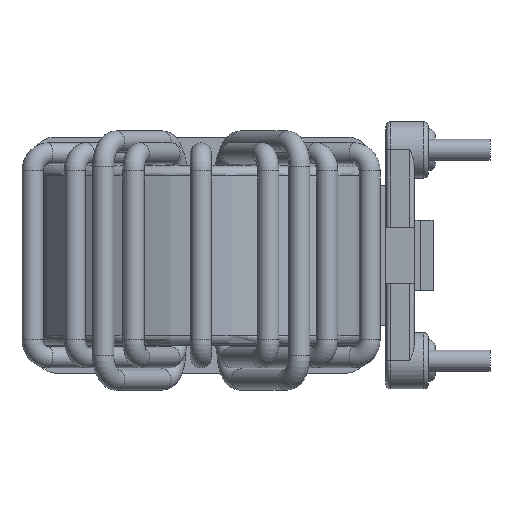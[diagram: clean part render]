
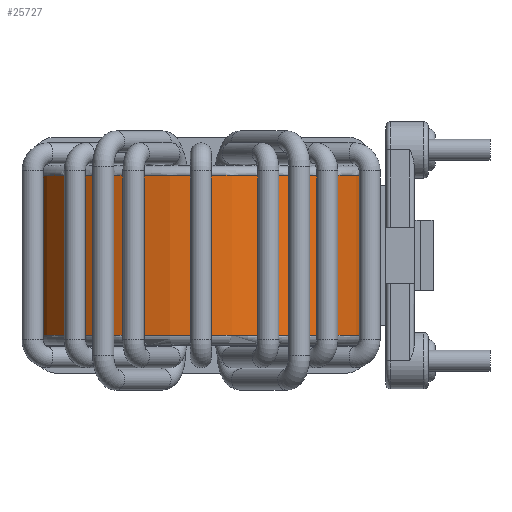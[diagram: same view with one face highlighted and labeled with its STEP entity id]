
A CAD part, left-side view. The second image highlights one B-rep face of the part: STEP entity #25727.
In plain terms, the highlighted cylindrical face has radius 12.7 mm (diameter 25.4 mm), a full revolution.
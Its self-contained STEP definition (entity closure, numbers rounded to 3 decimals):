
#504=FACE_BOUND('',#7459,.T.);
#505=FACE_BOUND('',#7460,.T.);
#2003=LINE('',#38059,#3927);
#2011=LINE('',#38078,#3935);
#2019=LINE('',#38097,#3943);
#2025=LINE('',#38112,#3949);
#2026=LINE('',#38127,#3950);
#3927=VECTOR('',#30564,10.);
#3935=VECTOR('',#30580,10.);
#3943=VECTOR('',#30596,10.);
#3949=VECTOR('',#30610,10.);
#3950=VECTOR('',#30629,12.7);
#5735=CYLINDRICAL_SURFACE('',#27700,12.7);
#6100=FACE_OUTER_BOUND('',#7458,.T.);
#7458=EDGE_LOOP('',(#17679,#17680,#17681,#17682,#17683));
#7459=EDGE_LOOP('',(#17684,#17685,#17686,#17687));
#7460=EDGE_LOOP('',(#17688,#17689,#17690,#17691));
#9218=CIRCLE('',#27693,12.7);
#9224=CIRCLE('',#27699,12.7);
#9225=CIRCLE('',#27701,12.7);
#9226=CIRCLE('',#27702,12.7);
#9227=CIRCLE('',#27703,12.7);
#9228=CIRCLE('',#27704,12.7);
#9229=CIRCLE('',#27705,12.7);
#10149=VERTEX_POINT('',#38052);
#10152=VERTEX_POINT('',#38057);
#10156=VERTEX_POINT('',#38071);
#10159=VERTEX_POINT('',#38076);
#10163=VERTEX_POINT('',#38090);
#10166=VERTEX_POINT('',#38095);
#10170=VERTEX_POINT('',#38108);
#10171=VERTEX_POINT('',#38110);
#10172=VERTEX_POINT('',#38114);
#10173=VERTEX_POINT('',#38115);
#10176=VERTEX_POINT('',#38126);
#12962=EDGE_CURVE('',#10152,#10149,#2003,.T.);
#12972=EDGE_CURVE('',#10159,#10156,#2011,.T.);
#12982=EDGE_CURVE('',#10166,#10163,#2019,.T.);
#12990=EDGE_CURVE('',#10171,#10170,#2025,.T.);
#12991=EDGE_CURVE('',#10172,#10173,#9218,.T.);
#12997=EDGE_CURVE('',#10173,#10172,#9224,.T.);
#12998=EDGE_CURVE('',#10172,#10176,#2026,.T.);
#12999=EDGE_CURVE('',#10176,#10176,#9225,.T.);
#13000=EDGE_CURVE('',#10152,#10163,#9226,.T.);
#13001=EDGE_CURVE('',#10166,#10149,#9227,.T.);
#13002=EDGE_CURVE('',#10159,#10170,#9228,.T.);
#13003=EDGE_CURVE('',#10171,#10156,#9229,.T.);
#17679=ORIENTED_EDGE('',*,*,#12991,.F.);
#17680=ORIENTED_EDGE('',*,*,#12998,.T.);
#17681=ORIENTED_EDGE('',*,*,#12999,.F.);
#17682=ORIENTED_EDGE('',*,*,#12998,.F.);
#17683=ORIENTED_EDGE('',*,*,#12997,.F.);
#17684=ORIENTED_EDGE('',*,*,#13000,.T.);
#17685=ORIENTED_EDGE('',*,*,#12982,.F.);
#17686=ORIENTED_EDGE('',*,*,#13001,.T.);
#17687=ORIENTED_EDGE('',*,*,#12962,.F.);
#17688=ORIENTED_EDGE('',*,*,#13002,.T.);
#17689=ORIENTED_EDGE('',*,*,#12990,.F.);
#17690=ORIENTED_EDGE('',*,*,#13003,.T.);
#17691=ORIENTED_EDGE('',*,*,#12972,.F.);
#25727=ADVANCED_FACE('',(#6100,#504,#505),#5735,.T.);
#27693=AXIS2_PLACEMENT_3D('',#38116,#30613,#30614);
#27699=AXIS2_PLACEMENT_3D('',#38124,#30625,#30626);
#27700=AXIS2_PLACEMENT_3D('',#38125,#30627,#30628);
#27701=AXIS2_PLACEMENT_3D('',#38128,#30630,#30631);
#27702=AXIS2_PLACEMENT_3D('',#38129,#30632,#30633);
#27703=AXIS2_PLACEMENT_3D('',#38130,#30634,#30635);
#27704=AXIS2_PLACEMENT_3D('',#38131,#30636,#30637);
#27705=AXIS2_PLACEMENT_3D('',#38132,#30638,#30639);
#30564=DIRECTION('',(0.,0.,-1.));
#30580=DIRECTION('',(0.,0.,1.));
#30596=DIRECTION('',(0.,0.,1.));
#30610=DIRECTION('',(0.,0.,-1.));
#30613=DIRECTION('center_axis',(0.,0.,
1.));
#30614=DIRECTION('ref_axis',(1.,0.,0.));
#30625=DIRECTION('center_axis',(0.,0.,
1.));
#30626=DIRECTION('ref_axis',(1.,0.,0.));
#30627=DIRECTION('center_axis',(0.,0.,
1.));
#30628=DIRECTION('ref_axis',(1.,0.,0.));
#30629=DIRECTION('',(0.,0.,-1.));
#30630=DIRECTION('center_axis',(0.,0.,
-1.));
#30631=DIRECTION('ref_axis',(1.,0.,0.));
#30632=DIRECTION('center_axis',(0.,0.,
1.));
#30633=DIRECTION('ref_axis',(1.,0.,0.));
#30634=DIRECTION('center_axis',(0.,0.,
-1.));
#30635=DIRECTION('ref_axis',(1.,0.,0.));
#30636=DIRECTION('center_axis',(0.,0.,
-1.));
#30637=DIRECTION('ref_axis',(1.,0.,0.));
#30638=DIRECTION('center_axis',(0.,0.,
1.));
#30639=DIRECTION('ref_axis',(1.,0.,0.));
#38052=CARTESIAN_POINT('',(2.886,2.782,-5.));
#38057=CARTESIAN_POINT('',(2.886,2.782,5.));
#38059=CARTESIAN_POINT('',(2.886,2.782,-5.2));
#38071=CARTESIAN_POINT('',(-2.886,2.782,5.));
#38076=CARTESIAN_POINT('',(-2.886,2.782,-5.));
#38078=CARTESIAN_POINT('',(-2.886,2.782,-5.2));
#38090=CARTESIAN_POINT('',(4.811,3.396,5.));
#38095=CARTESIAN_POINT('',(4.811,3.396,-5.));
#38097=CARTESIAN_POINT('',(4.811,3.396,-5.2));
#38108=CARTESIAN_POINT('',(-4.811,3.396,-5.));
#38110=CARTESIAN_POINT('',(-4.811,3.396,5.));
#38112=CARTESIAN_POINT('',(-4.811,3.396,-5.2));
#38114=CARTESIAN_POINT('',(-12.7,15.15,5.7));
#38115=CARTESIAN_POINT('',(12.7,15.15,5.7));
#38116=CARTESIAN_POINT('Origin',(0.,15.15,5.7));
#38124=CARTESIAN_POINT('Origin',(0.,15.15,5.7));
#38125=CARTESIAN_POINT('Origin',(0.,15.15,-5.2));
#38126=CARTESIAN_POINT('',(-12.7,15.15,-5.7));
#38127=CARTESIAN_POINT('',(-12.7,15.15,-5.2));
#38128=CARTESIAN_POINT('Origin',(0.,15.15,-5.7));
#38129=CARTESIAN_POINT('Origin',(0.,15.15,5.));
#38130=CARTESIAN_POINT('Origin',(0.,15.15,-5.));
#38131=CARTESIAN_POINT('Origin',(0.,15.15,-5.));
#38132=CARTESIAN_POINT('Origin',(0.,15.15,5.));
